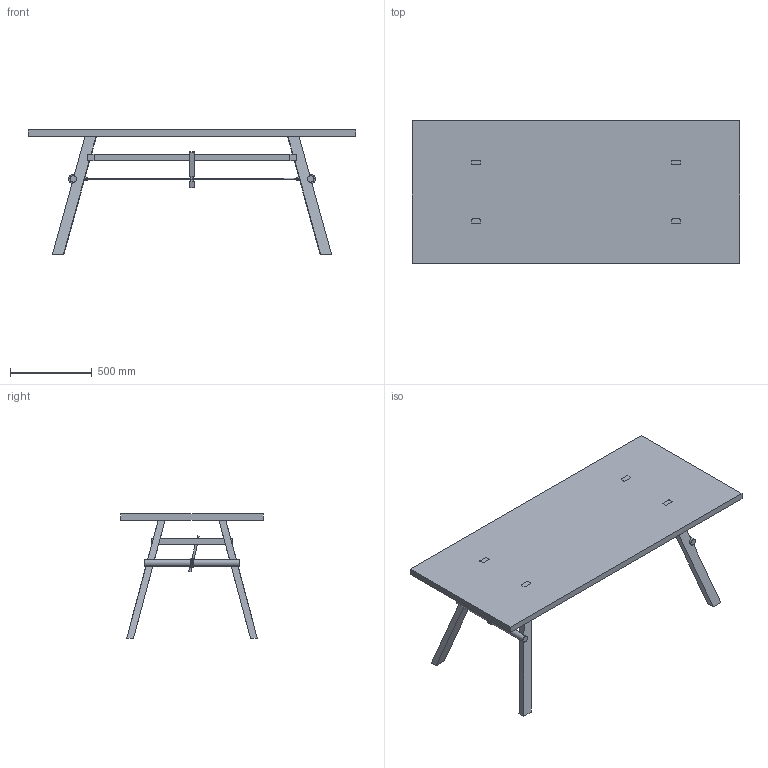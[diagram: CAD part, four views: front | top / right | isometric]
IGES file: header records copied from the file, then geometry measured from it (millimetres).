
Start section: Data from Parasolid IGES Translator 17.0.49, Copyright(c) 2006 Siemens P LM Software. All Rights Reserved.
Global section: file name: Johannes.igs; native system: By Siemens PLM Incorporated; preprocessor: XPlus GENERIC/IGES 17.0.49; author: Noname; organization: Noname; date: 20170604.141851; units: metre
Bounding box: 2000 x 870 x 760 mm (x, y, z)
Volume: 82634479.4 mm3; surface area: 5042421.3 mm2
Topology: 30 solids, 30 shells, 262 faces, 510 edges, 315 vertices
Faces by surface type: plane 132, cylinder 80, torus 50
Full cylindrical faces by diameter (mm): 40 x2
